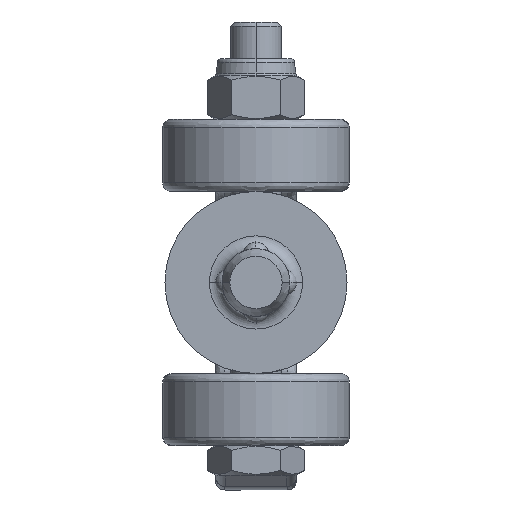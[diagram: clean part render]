
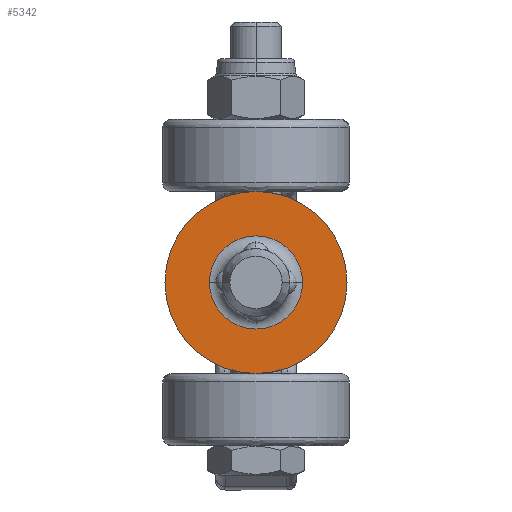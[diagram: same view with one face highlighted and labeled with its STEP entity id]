
A CAD part, front view. The second image highlights one B-rep face of the part: STEP entity #5342.
In plain terms, the highlighted planar face has unit normal (0, -1, 0) as drawn and (-1, 0, 0) by its records, which use the part's own axes.
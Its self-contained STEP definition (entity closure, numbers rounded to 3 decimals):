
#884 = DIRECTION ( 'NONE',  ( -1., 0., 0. ) ) ;
#979 = CARTESIAN_POINT ( 'NONE',  ( 0., 0., 0. ) ) ;
#1152 = DIRECTION ( 'NONE',  ( 0., 0., 1. ) ) ;
#1161 = DIRECTION ( 'NONE',  ( -1., 0., 0. ) ) ;
#1467 = ORIENTED_EDGE ( 'NONE', *, *, #6935, .F. ) ;
#1516 = DIRECTION ( 'NONE',  ( 1., 0., 0. ) ) ;
#1938 = CARTESIAN_POINT ( 'NONE',  ( 0., -5.5, 0. ) ) ;
#2059 = AXIS2_PLACEMENT_3D ( 'NONE', #979, #884, #3245 ) ;
#2092 = CIRCLE ( 'NONE', #3349, 5.5 ) ;
#2630 = AXIS2_PLACEMENT_3D ( 'NONE', #4598, #3217, #3068 ) ;
#2747 = DIRECTION ( 'NONE',  ( 0., -1., 0. ) ) ;
#2758 = CARTESIAN_POINT ( 'NONE',  ( 0., 0., -10.75 ) ) ;
#2888 = VERTEX_POINT ( 'NONE', #8604 ) ;
#2994 = CARTESIAN_POINT ( 'NONE',  ( 0., 6.5, 0. ) ) ;
#3068 = DIRECTION ( 'NONE',  ( 0., 0., 1. ) ) ;
#3181 = EDGE_LOOP ( 'NONE', ( #4080, #1467 ) ) ;
#3217 = DIRECTION ( 'NONE',  ( 1., 0., 0. ) ) ;
#3245 = DIRECTION ( 'NONE',  ( 0., -1., 0. ) ) ;
#3349 = AXIS2_PLACEMENT_3D ( 'NONE', #4927, #1161, #2747 ) ;
#3420 = CARTESIAN_POINT ( 'NONE',  ( 0., 0., 0. ) ) ;
#3483 = AXIS2_PLACEMENT_3D ( 'NONE', #3420, #9497, #1152 ) ;
#3947 = CIRCLE ( 'NONE', #2059, 5.5 ) ;
#4080 = ORIENTED_EDGE ( 'NONE', *, *, #8621, .F. ) ;
#4227 = ORIENTED_EDGE ( 'NONE', *, *, #4998, .F. ) ;
#4480 = DIRECTION ( 'NONE',  ( 0., 0., -1. ) ) ;
#4598 = CARTESIAN_POINT ( 'NONE',  ( 0., 0., 0. ) ) ;
#4663 = EDGE_LOOP ( 'NONE', ( #9772, #4227 ) ) ;
#4869 = VERTEX_POINT ( 'NONE', #7266 ) ;
#4927 = CARTESIAN_POINT ( 'NONE',  ( 0., 0., 0. ) ) ;
#4998 = EDGE_CURVE ( 'NONE', #2888, #5081, #2092, .T. ) ;
#5081 = VERTEX_POINT ( 'NONE', #1938 ) ;
#5218 = FACE_OUTER_BOUND ( 'NONE', #3181, .T. ) ;
#5342 = ADVANCED_FACE ( 'NONE', ( #5218, #8272 ), #6027, .F. ) ;
#5386 = CIRCLE ( 'NONE', #3483, 10.75 ) ;
#6027 = PLANE ( 'NONE',  #7829 ) ;
#6935 = EDGE_CURVE ( 'NONE', #8040, #4869, #7636, .T. ) ;
#7266 = CARTESIAN_POINT ( 'NONE',  ( 0., 0., 10.75 ) ) ;
#7636 = CIRCLE ( 'NONE', #2630, 10.75 ) ;
#7829 = AXIS2_PLACEMENT_3D ( 'NONE', #2994, #1516, #4480 ) ;
#8040 = VERTEX_POINT ( 'NONE', #2758 ) ;
#8272 = FACE_BOUND ( 'NONE', #4663, .T. ) ;
#8274 = EDGE_CURVE ( 'NONE', #5081, #2888, #3947, .T. ) ;
#8604 = CARTESIAN_POINT ( 'NONE',  ( 0., 5.5, 0. ) ) ;
#8621 = EDGE_CURVE ( 'NONE', #4869, #8040, #5386, .T. ) ;
#9497 = DIRECTION ( 'NONE',  ( 1., 0., 0. ) ) ;
#9772 = ORIENTED_EDGE ( 'NONE', *, *, #8274, .F. ) ;
